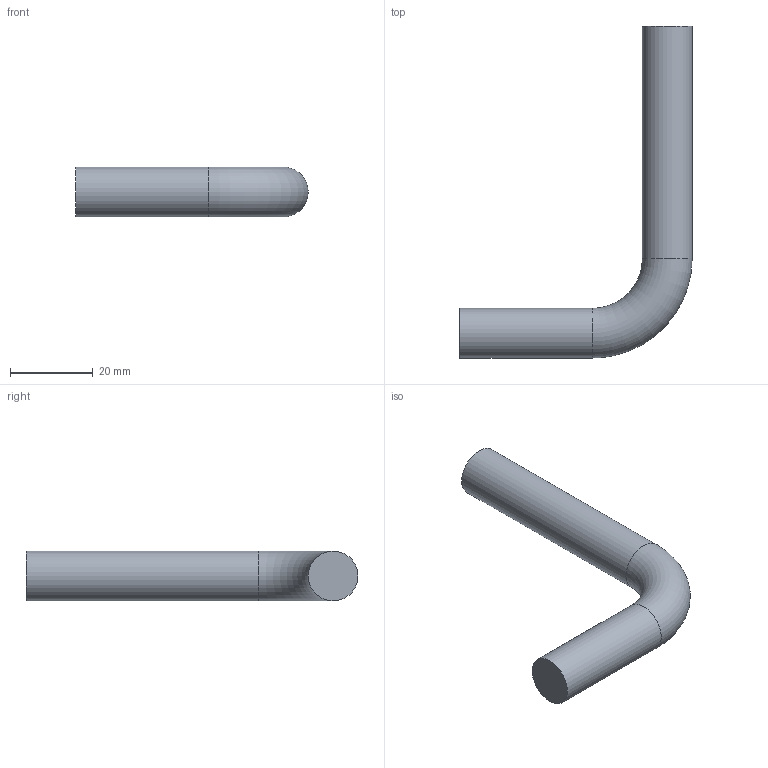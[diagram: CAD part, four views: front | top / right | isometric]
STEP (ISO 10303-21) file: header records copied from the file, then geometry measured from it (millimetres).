
FILE_DESCRIPTION(/* description */ (''),/* implementation_level */ '2;1');
FILE_NAME(/* name */ 'Pos101-Massieve as 12-S235JRG2-32st',/* time_stamp */ '2024-08-06T11:42:42+02:00',/* author */ (''),/* organization */ (''),/* preprocessor_version */ 'ST-DEVELOPER v16.5',/* originating_system */ 'HiCAD 2024 2901.2 Build 361',/* authorisation */ '');
FILE_SCHEMA (('AUTOMOTIVE_DESIGN { 1 0 10303 214 1 1 1 1 }'));
Length unit declared in the file: millimetre
Products named in the file (1): Pos101-Massieve as 12-S235JRG2-32st
Bounding box: 56 x 80 x 12 mm (x, y, z)
Volume: 13150.3 mm3; surface area: 4609.6 mm2
Topology: 1 solids, 1 shells, 5 faces, 7 edges, 4 vertices
Faces by surface type: plane 2, cylinder 2, torus 1
Full cylindrical faces by diameter (mm): 12 x2
Entity records: 152 total; most frequent: DIRECTION 18, CARTESIAN_POINT 13, PRESENTATION_STYLE_ASSIGNMENT 9, COLOUR_RGB 9, AXIS2_PLACEMENT_3D 9, DRAUGHTING_PRE_DEFINED_CURVE_FONT 8, CURVE_STYLE 8, OVER_RIDING_STYLED_ITEM 8
